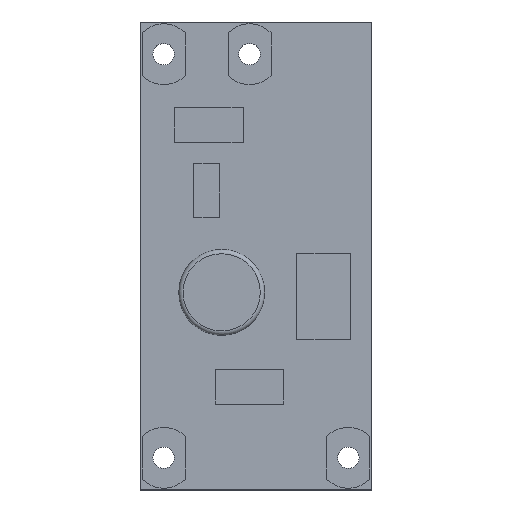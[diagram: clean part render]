
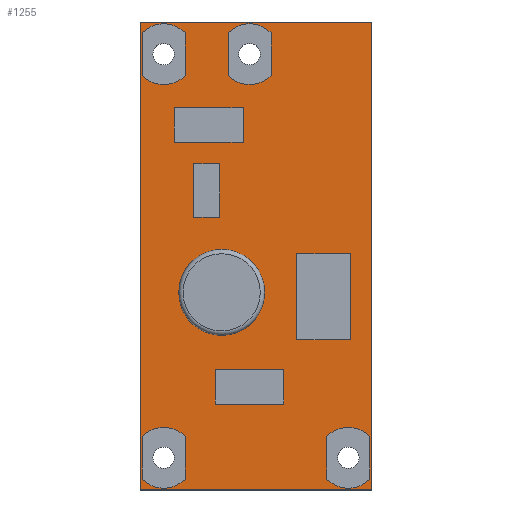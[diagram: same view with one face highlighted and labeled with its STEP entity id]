
A CAD part, top view. The second image highlights one B-rep face of the part: STEP entity #1255.
In plain terms, the highlighted planar face has unit normal (0, 0, 1).
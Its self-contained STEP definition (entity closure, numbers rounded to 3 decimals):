
#34=FACE_BOUND('',#214,.T.);
#35=FACE_BOUND('',#215,.T.);
#36=FACE_BOUND('',#216,.T.);
#37=FACE_BOUND('',#217,.T.);
#50=CIRCLE('',#1338,1.414);
#52=CIRCLE('',#1342,1.414);
#54=CIRCLE('',#1346,1.414);
#56=CIRCLE('',#1350,1.414);
#58=CIRCLE('',#1354,1.414);
#60=CIRCLE('',#1358,1.414);
#62=CIRCLE('',#1362,1.414);
#64=CIRCLE('',#1366,1.414);
#135=FACE_OUTER_BOUND('',#213,.T.);
#213=EDGE_LOOP('',(#913,#914,#915,#916));
#214=EDGE_LOOP('',(#917,#918,#919,#920));
#215=EDGE_LOOP('',(#921,#922,#923,#924));
#216=EDGE_LOOP('',(#925,#926,#927,#928));
#217=EDGE_LOOP('',(#929,#930,#931,#932));
#287=LINE('',#1837,#416);
#292=LINE('',#1851,#421);
#295=LINE('',#1861,#424);
#300=LINE('',#1875,#429);
#303=LINE('',#1885,#432);
#308=LINE('',#1899,#437);
#311=LINE('',#1909,#440);
#316=LINE('',#1923,#445);
#319=LINE('',#1933,#448);
#323=LINE('',#1941,#452);
#326=LINE('',#1947,#455);
#329=LINE('',#1952,#458);
#416=VECTOR('',#1462,10.);
#421=VECTOR('',#1475,10.);
#424=VECTOR('',#1486,10.);
#429=VECTOR('',#1499,10.);
#432=VECTOR('',#1510,10.);
#437=VECTOR('',#1523,10.);
#440=VECTOR('',#1534,10.);
#445=VECTOR('',#1547,10.);
#448=VECTOR('',#1558,10.);
#452=VECTOR('',#1564,10.);
#455=VECTOR('',#1569,10.);
#458=VECTOR('',#1574,10.);
#545=VERTEX_POINT('',#1835);
#546=VERTEX_POINT('',#1836);
#549=VERTEX_POINT('',#1844);
#551=VERTEX_POINT('',#1850);
#553=VERTEX_POINT('',#1859);
#554=VERTEX_POINT('',#1860);
#557=VERTEX_POINT('',#1868);
#559=VERTEX_POINT('',#1874);
#561=VERTEX_POINT('',#1883);
#562=VERTEX_POINT('',#1884);
#565=VERTEX_POINT('',#1892);
#567=VERTEX_POINT('',#1898);
#569=VERTEX_POINT('',#1907);
#570=VERTEX_POINT('',#1908);
#573=VERTEX_POINT('',#1916);
#575=VERTEX_POINT('',#1922);
#577=VERTEX_POINT('',#1931);
#578=VERTEX_POINT('',#1932);
#581=VERTEX_POINT('',#1940);
#583=VERTEX_POINT('',#1946);
#660=EDGE_CURVE('',#545,#546,#287,.T.);
#664=EDGE_CURVE('',#546,#549,#50,.T.);
#667=EDGE_CURVE('',#549,#551,#292,.T.);
#670=EDGE_CURVE('',#551,#545,#52,.T.);
#672=EDGE_CURVE('',#553,#554,#295,.T.);
#676=EDGE_CURVE('',#554,#557,#54,.T.);
#679=EDGE_CURVE('',#557,#559,#300,.T.);
#682=EDGE_CURVE('',#559,#553,#56,.T.);
#684=EDGE_CURVE('',#561,#562,#303,.T.);
#688=EDGE_CURVE('',#562,#565,#58,.T.);
#691=EDGE_CURVE('',#565,#567,#308,.T.);
#694=EDGE_CURVE('',#567,#561,#60,.T.);
#696=EDGE_CURVE('',#569,#570,#311,.T.);
#700=EDGE_CURVE('',#570,#573,#62,.T.);
#703=EDGE_CURVE('',#573,#575,#316,.T.);
#706=EDGE_CURVE('',#575,#569,#64,.T.);
#708=EDGE_CURVE('',#577,#578,#319,.T.);
#712=EDGE_CURVE('',#578,#581,#323,.T.);
#715=EDGE_CURVE('',#581,#583,#326,.T.);
#718=EDGE_CURVE('',#583,#577,#329,.T.);
#913=ORIENTED_EDGE('',*,*,#718,.T.);
#914=ORIENTED_EDGE('',*,*,#708,.T.);
#915=ORIENTED_EDGE('',*,*,#712,.T.);
#916=ORIENTED_EDGE('',*,*,#715,.T.);
#917=ORIENTED_EDGE('',*,*,#706,.T.);
#918=ORIENTED_EDGE('',*,*,#696,.T.);
#919=ORIENTED_EDGE('',*,*,#700,.T.);
#920=ORIENTED_EDGE('',*,*,#703,.T.);
#921=ORIENTED_EDGE('',*,*,#694,.T.);
#922=ORIENTED_EDGE('',*,*,#684,.T.);
#923=ORIENTED_EDGE('',*,*,#688,.T.);
#924=ORIENTED_EDGE('',*,*,#691,.T.);
#925=ORIENTED_EDGE('',*,*,#682,.T.);
#926=ORIENTED_EDGE('',*,*,#672,.T.);
#927=ORIENTED_EDGE('',*,*,#676,.T.);
#928=ORIENTED_EDGE('',*,*,#679,.T.);
#929=ORIENTED_EDGE('',*,*,#670,.T.);
#930=ORIENTED_EDGE('',*,*,#660,.T.);
#931=ORIENTED_EDGE('',*,*,#664,.T.);
#932=ORIENTED_EDGE('',*,*,#667,.T.);
#1191=PLANE('',#1372);
#1255=ADVANCED_FACE('',(#135,#34,#35,#36,#37),#1191,.T.);
#1338=AXIS2_PLACEMENT_3D('',#1845,#1468,#1469);
#1342=AXIS2_PLACEMENT_3D('',#1856,#1480,#1481);
#1346=AXIS2_PLACEMENT_3D('',#1869,#1492,#1493);
#1350=AXIS2_PLACEMENT_3D('',#1880,#1504,#1505);
#1354=AXIS2_PLACEMENT_3D('',#1893,#1516,#1517);
#1358=AXIS2_PLACEMENT_3D('',#1904,#1528,#1529);
#1362=AXIS2_PLACEMENT_3D('',#1917,#1540,#1541);
#1366=AXIS2_PLACEMENT_3D('',#1928,#1552,#1553);
#1372=AXIS2_PLACEMENT_3D('',#1954,#1576,#1577);
#1462=DIRECTION('',(0.,1.,0.));
#1468=DIRECTION('center_axis',(0.,0.,-1.));
#1469=DIRECTION('ref_axis',(0.707,0.707,0.));
#1475=DIRECTION('',(0.,-1.,0.));
#1480=DIRECTION('center_axis',(0.,0.,-1.));
#1481=DIRECTION('ref_axis',(-0.707,-0.707,0.));
#1486=DIRECTION('',(0.,1.,0.));
#1492=DIRECTION('center_axis',(0.,0.,-1.));
#1493=DIRECTION('ref_axis',(0.707,0.707,0.));
#1499=DIRECTION('',(0.,-1.,0.));
#1504=DIRECTION('center_axis',(0.,0.,-1.));
#1505=DIRECTION('ref_axis',(-0.707,-0.707,0.));
#1510=DIRECTION('',(0.,-1.,0.));
#1516=DIRECTION('center_axis',(0.,0.,-1.));
#1517=DIRECTION('ref_axis',(-0.707,-0.707,0.));
#1523=DIRECTION('',(0.,1.,0.));
#1528=DIRECTION('center_axis',(0.,0.,-1.));
#1529=DIRECTION('ref_axis',(0.707,0.707,0.));
#1534=DIRECTION('',(0.,-1.,0.));
#1540=DIRECTION('center_axis',(0.,0.,-1.));
#1541=DIRECTION('ref_axis',(-0.707,-0.707,0.));
#1547=DIRECTION('',(0.,1.,0.));
#1552=DIRECTION('center_axis',(0.,0.,-1.));
#1553=DIRECTION('ref_axis',(0.707,0.707,0.));
#1558=DIRECTION('',(1.,0.,0.));
#1564=DIRECTION('',(0.,1.,0.));
#1569=DIRECTION('',(-1.,0.,0.));
#1574=DIRECTION('',(0.,-1.,0.));
#1576=DIRECTION('center_axis',(0.,0.,1.));
#1577=DIRECTION('ref_axis',(1.,0.,0.));
#1835=CARTESIAN_POINT('',(0.1,19.3,0.));
#1836=CARTESIAN_POINT('',(0.1,21.3,0.));
#1837=CARTESIAN_POINT('',(0.1,21.3,0.));
#1844=CARTESIAN_POINT('',(2.1,21.3,0.));
#1845=CARTESIAN_POINT('Origin',(1.1,20.3,0.));
#1850=CARTESIAN_POINT('',(2.1,19.3,0.));
#1851=CARTESIAN_POINT('',(2.1,19.3,0.));
#1856=CARTESIAN_POINT('Origin',(1.1,20.3,0.));
#1859=CARTESIAN_POINT('',(4.1,19.3,0.));
#1860=CARTESIAN_POINT('',(4.1,21.3,0.));
#1861=CARTESIAN_POINT('',(4.1,21.3,0.));
#1868=CARTESIAN_POINT('',(6.1,21.3,0.));
#1869=CARTESIAN_POINT('Origin',(5.1,20.3,0.));
#1874=CARTESIAN_POINT('',(6.1,19.3,0.));
#1875=CARTESIAN_POINT('',(6.1,19.3,0.));
#1880=CARTESIAN_POINT('Origin',(5.1,20.3,0.));
#1883=CARTESIAN_POINT('',(2.1,2.5,0.));
#1884=CARTESIAN_POINT('',(2.1,0.5,0.));
#1885=CARTESIAN_POINT('',(2.1,2.5,0.));
#1892=CARTESIAN_POINT('',(0.1,0.5,0.));
#1893=CARTESIAN_POINT('Origin',(1.1,1.5,0.));
#1898=CARTESIAN_POINT('',(0.1,2.5,0.));
#1899=CARTESIAN_POINT('',(0.1,0.5,0.));
#1904=CARTESIAN_POINT('Origin',(1.1,1.5,0.));
#1907=CARTESIAN_POINT('',(10.7,2.5,0.));
#1908=CARTESIAN_POINT('',(10.7,0.5,0.));
#1909=CARTESIAN_POINT('',(10.7,0.5,0.));
#1916=CARTESIAN_POINT('',(8.7,0.5,0.));
#1917=CARTESIAN_POINT('Origin',(9.7,1.5,0.));
#1922=CARTESIAN_POINT('',(8.7,2.5,0.));
#1923=CARTESIAN_POINT('',(8.7,2.5,0.));
#1928=CARTESIAN_POINT('Origin',(9.7,1.5,0.));
#1931=CARTESIAN_POINT('',(0.,0.,0.));
#1932=CARTESIAN_POINT('',(10.8,0.,0.));
#1933=CARTESIAN_POINT('',(0.,0.,0.));
#1940=CARTESIAN_POINT('',(10.8,21.8,0.));
#1941=CARTESIAN_POINT('',(10.8,0.,0.));
#1946=CARTESIAN_POINT('',(0.,21.8,0.));
#1947=CARTESIAN_POINT('',(10.8,21.8,0.));
#1952=CARTESIAN_POINT('',(0.,21.8,0.));
#1954=CARTESIAN_POINT('Origin',(5.4,10.9,0.));
